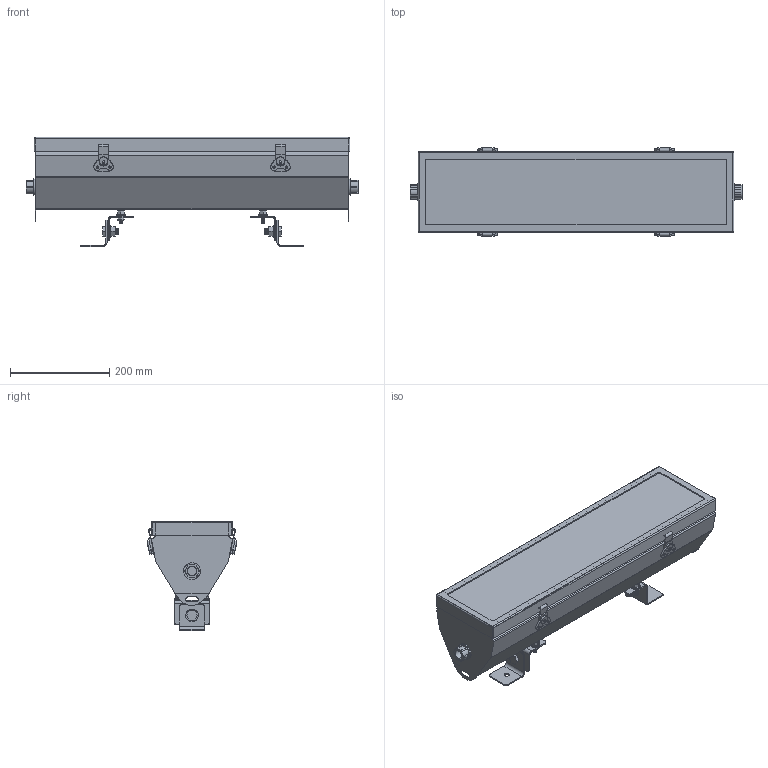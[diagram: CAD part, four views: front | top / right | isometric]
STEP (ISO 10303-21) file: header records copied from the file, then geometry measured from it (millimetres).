
FILE_DESCRIPTION (( 'STEP AP214' ), '1' );
FILE_NAME ('HAL-24-2L-LED-BMSW.STEP', '2015-03-13T21:05:57', ( '' ), ( '' ), 'SwSTEP 2.0', 'SolidWorks 2015', '' );
FILE_SCHEMA (( 'AUTOMOTIVE_DESIGN' ));
Length unit declared in the file: inch
Products named in the file (3): HAL-24-2L-LED-BMSW; fastener 2.0
Assembly tree (5 placements, depth 2):
  HAL-24-2L-LED-BMSW
    HAL-24-2L-LED-BMSW
    fastener 2.0  x4
Bounding box: 667.58 x 179.97 x 219.71 mm (x, y, z)
Volume: 12034197.5 mm3; surface area: 567327.1 mm2
Topology: 5 solids, 6 shells, 936 faces, 2458 edges, 1540 vertices
Faces by surface type: plane 392, cylinder 298, cone 220, bspline 26
Entity records: 39192 total; most frequent: CARTESIAN_POINT 10696, ORIENTED_EDGE 3916, DIRECTION 3666, EDGE_CURVE 1958, AXIS2_PLACEMENT_3D 1290, VERTEX_POINT 1222, LINE 1086, VECTOR 1086
